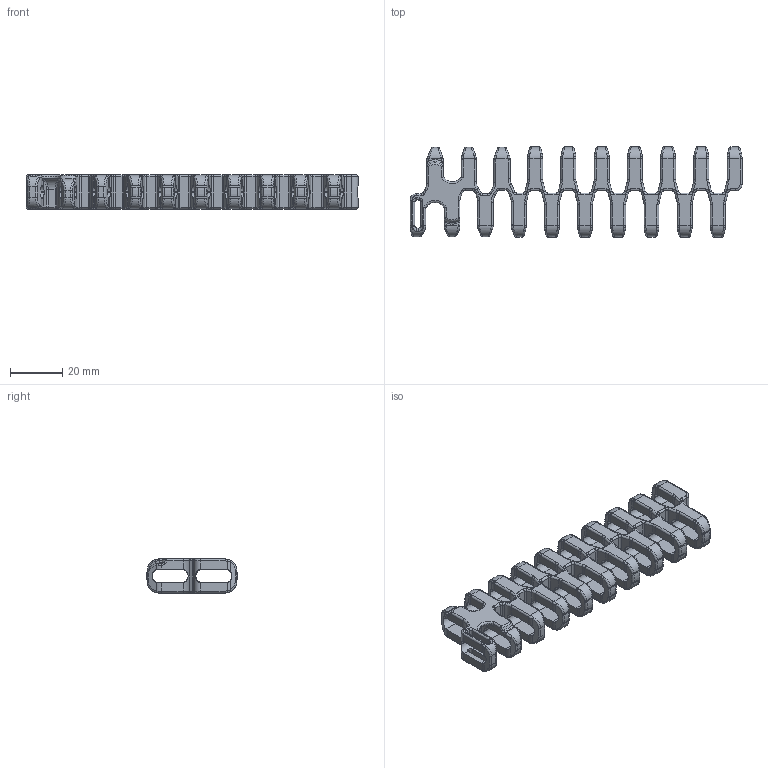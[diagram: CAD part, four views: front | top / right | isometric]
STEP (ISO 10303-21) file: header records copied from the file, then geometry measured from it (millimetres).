
FILE_DESCRIPTION((''),'2;1');
FILE_NAME('P1013','2009-03-02T',('jbe'),(''),'PRO/ENGINEER BY PARAMETRIC TECHNOLOGY CORPORATION, 2008400','PRO/ENGINEER BY PARAMETRIC TECHNOLOGY CORPORATION, 2008400','');
FILE_SCHEMA(('CONFIG_CONTROL_DESIGN'));
Products named in the file (1): P1013
Bounding box: 126.9 x 34.66 x 13 mm (x, y, z)
Volume: 16478.4 mm3; surface area: 15431.5 mm2
Topology: 1 solids, 1 shells, 1744 faces, 4560 edges, 2796 vertices
Faces by surface type: plane 639, cylinder 588, bspline 273, torus 238, sphere 4, cone 2
Entity records: 73363 total; most frequent: CARTESIAN_POINT 32360, ORIENTED_EDGE 9120, DIRECTION 8014, EDGE_CURVE 4560, AXIS2_PLACEMENT_3D 2854, VERTEX_POINT 2796, VECTOR 2306, LINE 2306
